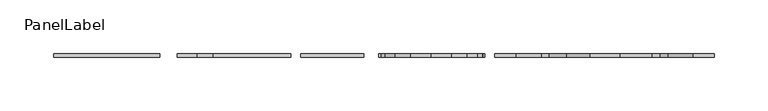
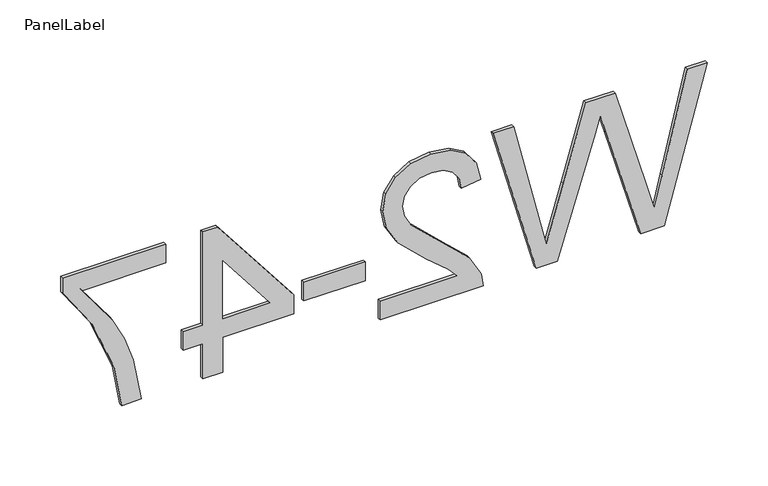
"""IFC4 building model written with IfcOpenShell, lengths in millimetres: fastener geometry, PanelLabel : Miranda."""

from ifc_helpers import new_model, si_unit, frame, origin, place, context, project, spatial, polyline, outline, extrude, source, transform, mapped, element, save


def panellabel_1d555ae4(model_context):
    return source(origin(), model_context, "Body", "SweptSolid", [
        extrude(outline(polyline([(1310.9113766, 268.5683654), (1460.9667612, 309.4892308), (1460.9667612, 290.1461538), (1362.3463766, 266.4069231), (1331.9030112, 259.08), (1358.8294535, 251.2401923), (1460.9667612, 221.4928846), (1460.9667612, 193.6139423), (1386.9282035, 171.9995192), (1331.9030112, 155.9169231), (1361.4671458, 148.8098077), (1460.9667612, 124.8507692), (1460.9667612, 105.5076923), (1310.9113766, 146.4651923), (1310.9113766, 166.5043269), (1426.6767612, 202.4795192), (1442.8326266, 207.4984615), (1423.3796458, 213.1401923), (1310.9113766, 245.9281731), (1310.9113766, 268.5683654)])), frame((0.0, 85.725, 0.0), z_axis=(0.0, 1.0, 0.0), x_axis=(0.0, 0.0, 1.0)), (0.0, 0.0, 1.0), 3.175),
        extrude(outline(polyline([(1329.6682997, -2.3446154), (1310.9113766, -2.3446154), (1310.9113766, 96.1292308), (1323.8433958, 94.1143269), (1343.7543093, 82.7209615), (1365.4969535, 59.2381731), (1396.7462804, 26.8531731), (1407.5168573, 20.7809856), (1417.9943573, 18.7569231), (1427.3865569, 20.6665024), (1435.1943093, 26.3952404), (1440.4559559, 35.2012861), (1442.2098381, 46.3427885), (1440.4971698, 58.0429688), (1435.359165, 67.1329327), (1427.1988045, 72.9990505), (1416.4190689, 75.0276923), (1418.7636843, 93.7846154), (1436.9069775, 89.2373438), (1450.1595497, 79.4055288), (1458.2649583, 64.8020553), (1460.9667612, 45.9398077), (1457.9627227, 26.9401803), (1448.9506073, 12.3641827), (1435.4873862, 3.0910457), (1419.1300304, 0.0), (1401.3439247, 3.33375), (1382.9533477, 14.4157212), (1357.254165, 41.2872115), (1339.211617, 62.865), (1329.6682997, 71.3275962), (1329.6682997, -2.3446154)])), frame((0.0, 85.725, 0.0), z_axis=(0.0, 1.0, 0.0), x_axis=(0.0, 0.0, 1.0)), (0.0, 0.0, 1.0), 3.175),
        extrude(outline(polyline([(-75.0276923, 88.9), (-16.4123077, 88.9), (-16.4123077, 85.725), (-75.0276923, 85.725), (-75.0276923, 88.9)])), frame((0.0, 0.0, 1355.4590689), z_axis=(0.0, 0.0, 1.0), x_axis=(1.0, 0.0, 0.0)), (0.0, 0.0, 1.0), 18.7569231),
        extrude(outline(polyline([(1310.9113766, -152.4), (1346.0806073, -152.4), (1346.0806073, -84.4061538), (1364.8375304, -84.4061538), (1458.6221458, -157.0892308), (1458.6221458, -171.1569231), (1364.8375304, -171.1569231), (1364.8375304, -189.9138462), (1346.0806073, -189.9138462), (1346.0806073, -171.1569231), (1310.9113766, -171.1569231), (1310.9113766, -152.4)]), holes=[polyline([(1364.8375304, -152.4), (1422.793492, -152.4), (1364.8375304, -107.4859615), (1364.8375304, -152.4)])]), frame((0.0, 85.725, 0.0), z_axis=(0.0, 1.0, 0.0), x_axis=(0.0, 0.0, 1.0)), (0.0, 0.0, 1.0), 3.175),
        extrude(outline(polyline([(1439.8652227, -206.3261538), (1458.6221458, -206.3261538), (1458.6221458, -304.8), (1443.455415, -304.8), (1403.1023862, -276.8661058), (1351.6857035, -255.4898077), (1310.9113766, -248.5292308), (1310.9113766, -229.7723077), (1353.2243573, -237.2274519), (1377.5817972, -245.9052764), (1401.0508477, -257.6878846), (1439.8652227, -286.0430769), (1439.8652227, -206.3261538)])), frame((0.0, 85.725, 0.0), z_axis=(0.0, 1.0, 0.0), x_axis=(0.0, 0.0, 1.0)), (0.0, 0.0, 1.0), 3.175),
    ])


if __name__ == "__main__":
    model = new_model("IFC4")
    model_context = context("Model", 3, world=origin())
    ifc_project = project(units=[si_unit("LENGTHUNIT", "METRE", prefix="MILLI")], contexts=[model_context])
    site = spatial("IfcSite", under=ifc_project)
    building = spatial("IfcBuilding", under=site)
    placement = place(None, origin())
    panellabel_shape = panellabel_1d555ae4(model_context)
    element("IfcFastener", 1, ObjectType="PanelLabel : Miranda", at=placement, inside=building, context=model_context, shape_type="MappedRepresentation", body=[
        mapped(panellabel_shape, transform((0.0, 0.0, 0.0), x_axis=(1.0, 0.0, 0.0), y_axis=(0.0, 1.0, 0.0), z_axis=(0.0, 0.0, 1.0))),
    ])
    save(model, "model.ifc")
